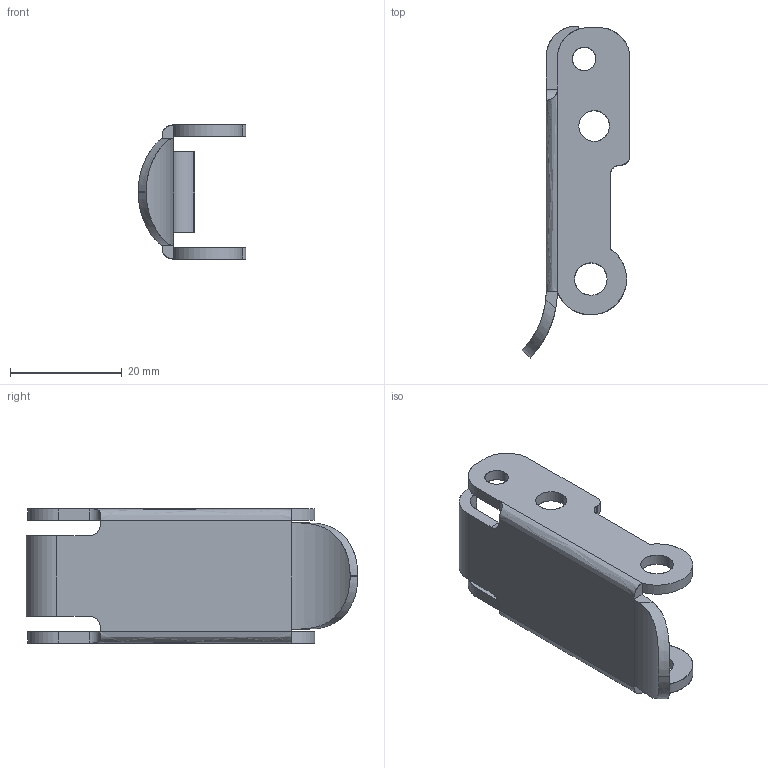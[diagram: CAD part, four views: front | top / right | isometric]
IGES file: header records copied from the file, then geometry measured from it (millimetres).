
Start section: SolidWorks IGES file using analytic representation for surfaces
Global section: file name: C:\Users\cbrechard\Desktop\GO 2032\2034.010.10.IGS; native system: SolidWorks 2008; preprocessor: SolidWorks 2008; author: cbrechard; date: 130424.091306; units: millimetre
Bounding box: 19.3 x 59.41 x 24 mm (x, y, z)
Surface area: 5186.4 mm2 (no closed solid volume)
Topology: 0 solids, 0 shells, 90 faces, 1180 edges, 1150 vertices
Faces by surface type: revolution 65, bspline 25
